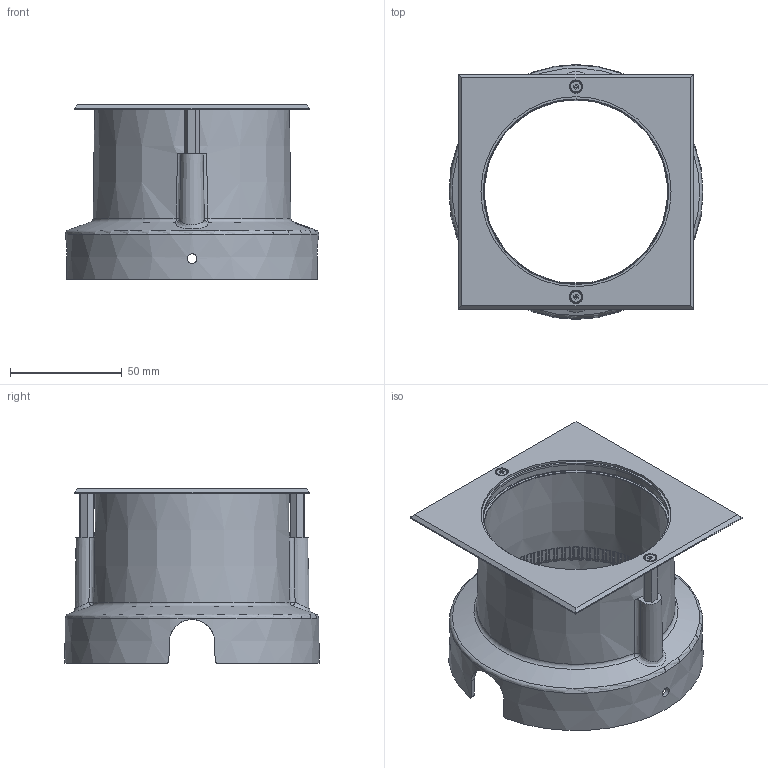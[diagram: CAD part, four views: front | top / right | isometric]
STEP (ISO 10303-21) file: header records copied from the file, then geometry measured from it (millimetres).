
FILE_DESCRIPTION(/* description */ ('Unknown'),/* implementation_level */ '2;1');
FILE_NAME(/* name */ 'E99856',/* time_stamp */ '2023-02-07T11:32:08+01:00',/* author */ ('Unknown'),/* organization */ ('Unknown'),/* preprocessor_version */ 'ST-DEVELOPER v18.1',/* originating_system */ 'Solid Edge',/* authorisation */ 'Unknown');
FILE_SCHEMA (('AUTOMOTIVE_DESIGN {1 0 10303 214 3 1 1}'));
Products named in the file (1): E99856
Bounding box: 113.32 x 114 x 78 mm (x, y, z)
Volume: 71800.5 mm3; surface area: 64974.2 mm2
Topology: 1 solids, 1 shells, 1882 faces, 4535 edges, 2640 vertices
Faces by surface type: bspline 1098, plane 207, torus 195, cone 183, cylinder 163, sphere 36
Full cylindrical faces by diameter (mm): 1 x2, 3 x2, 3.3 x2, 4.3 x2, 83 x1, 85 x2
Entity records: 80961 total; most frequent: CARTESIAN_POINT 32568, ORIENTED_EDGE 8858, DIRECTION 5264, EDGE_CURVE 4429, VERTEX_POINT 2616, AXIS2_PLACEMENT_3D 2425, B_SPLINE_CURVE_WITH_KNOTS 2375, EDGE_LOOP 1959
